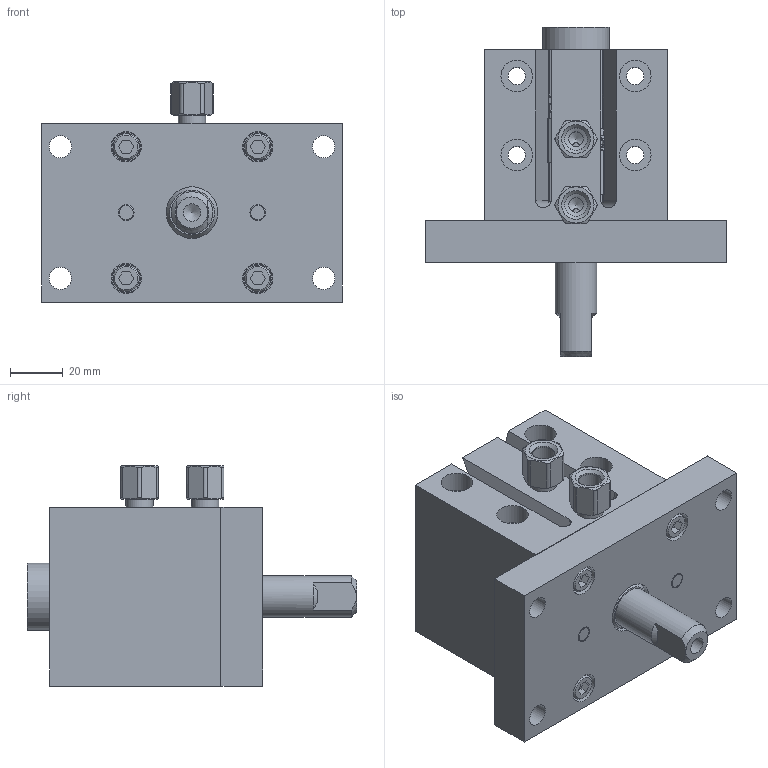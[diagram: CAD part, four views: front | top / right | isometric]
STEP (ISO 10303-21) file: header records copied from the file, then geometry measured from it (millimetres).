
FILE_DESCRIPTION(/* description */ ('PNEUMATIC PASS THRU GROUND UNIT'),/* implementation_level */ '2;1');
FILE_NAME(/* name */ 'C:\Vault Workspace\CAD\Welker\Cylinders\GBP\GBP0N.stp',/* time_stamp */ '2021-06-24T14:00:25-04:00',/* author */ ('KPL'),/* organization */ (''),/* preprocessor_version */ 'ST-DEVELOPER v18.1',/* originating_system */ 'Autodesk Inventor 2020',/* authorisation */ '');
FILE_SCHEMA (('AUTOMOTIVE_DESIGN { 1 0 10303 214 3 1 1 }'));
Products named in the file (11): GBPL01; 6mmX25 ; M6X1-20 SHCS; NL6; WBB1222823; L3 Sensor 1; GBPE01; GBPE02; GBPE03; AN-09U2145; AN-03U2145
Assembly tree (19 placements, depth 2):
  GBPL01
    6mmX25   x2
    M6X1-20 SHCS  x4
    NL6  x4
    WBB1222823  x2
    L3 Sensor 1  x2
    GBPE01
    GBPE02
    GBPE03
    AN-09U2145
    AN-03U2145
Bounding box: 114.3 x 125 x 83.65 mm (x, y, z)
Volume: 381821.7 mm3; surface area: 93481.8 mm2
Topology: 19 solids, 19 shells, 556 faces, 1460 edges, 980 vertices
Faces by surface type: plane 338, cylinder 157, cone 51, torus 8, sphere 2
Full cylindrical faces by diameter (mm): 2.5 x2, 2.9 x2, 4.917 x4, 5.588 x2, 6 x10, 6.5 x8, 6.647 x5, 7.95 x2, 8 x2, 8.5 x4, 8.611 x2, 10 x4, 10.389 x2, 10.8 x4, 11.5 x4, 12 x4, 13.335 x1, 14.935 x2, 15.875 x4, 15.951 x2, 16.129 x1, 19.609 x1, 22.022 x1, 22.225 x1, 22.479 x2, 25.4 x1, 26.162 x1, 28.55 x1, 29.159 x1, 31.75 x3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
Entity records: 11849 total; most frequent: CARTESIAN_POINT 2252, DIRECTION 1991, ORIENTED_EDGE 1810, EDGE_CURVE 905, AXIS2_PLACEMENT_3D 755, VERTEX_POINT 627, LINE 481, VECTOR 481
